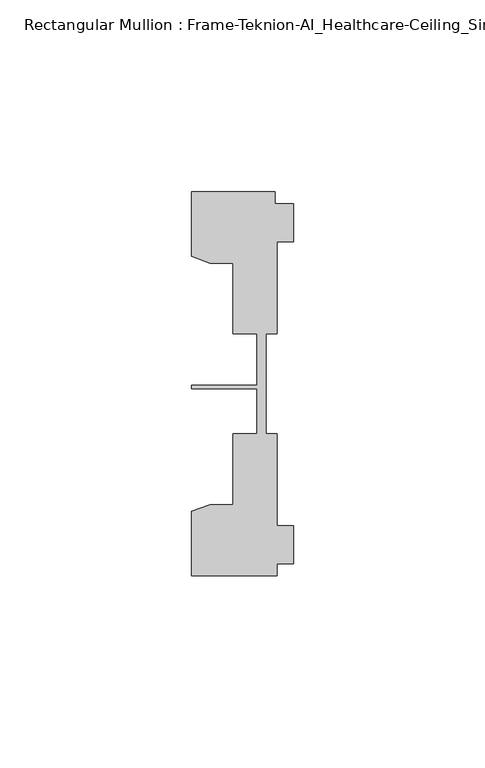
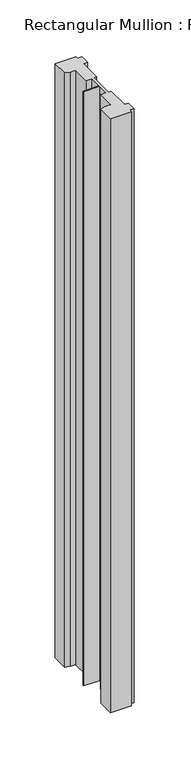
"""IFC4 building model written with IfcOpenShell, lengths in millimetres: member geometry, Rectangular Mullion : Frame-Teknion-AI_Healthcare-Ceiling_Single_Channel."""

import ifcopenshell
import ifcopenshell.guid

model = None  # the IFC model being written
_history = None  # IfcOwnerHistory: only IFC2X3 demands one
_inside = {}  # id of a spatial element -> (the spatial element, [elements in it])
_under = {}  # id of a project, library or spatial element -> (it, [spatial elements below it])
_declared = {}  # id of a project -> (the project, [libraries it declares])
_typed = {}  # id of a type object -> (the type object, [elements of that type])
_made_of = {}  # id of a material, layer set ... -> (it, [elements and type objects made of it])


def new_model(schema):
    """Start an empty IFC model of exactly this schema.

    Asked for "IFC4X3", IfcOpenShell would pick the latest addendum, in which some entities
    have other attributes; the version numbers below select the first issue.
    IFC2X3 requires an IfcOwnerHistory on every rooted entity: one is made here for all.
    """
    global model, _history
    if schema == "IFC4X3":
        model = ifcopenshell.file(schema_version=(4, 3, 0, 0))
    else:
        model = ifcopenshell.file(schema=schema)
    _inside.clear()
    _under.clear()
    _declared.clear()
    _typed.clear()
    _made_of.clear()
    _history = None
    if model.schema == "IFC2X3":
        org = make("IfcOrganization", Name="unknown")
        user = make(
            "IfcPersonAndOrganization",
            ThePerson=make("IfcPerson", FamilyName="unknown"),
            TheOrganization=org,
        )
        app = make(
            "IfcApplication",
            ApplicationDeveloper=org,
            Version="unknown",
            ApplicationFullName="unknown",
            ApplicationIdentifier="unknown",
        )
        _history = make(
            "IfcOwnerHistory",
            OwningUser=user,
            OwningApplication=app,
            ChangeAction="ADDED",
            CreationDate=0,
        )
    return model


def make(cls, **values):
    """One entity of the class cls with the attributes given. An attribute that is None is left unset."""
    return model.create_entity(
        cls, **{name: value for name, value in values.items() if value is not None}
    )


def rooted(cls, **values):
    """An entity with a GlobalId (a new one), such as an element, a storey or a relation."""
    return make(cls, GlobalId=ifcopenshell.guid.new(), OwnerHistory=_history, **values)


def si_unit(unit_type, name, prefix=None):
    """IfcSIUnit, for example si_unit("LENGTHUNIT", "METRE", prefix="MILLI")."""
    return make("IfcSIUnit", UnitType=unit_type, Prefix=prefix, Name=name)


def assignment(units):
    """IfcUnitAssignment: the units of a project."""
    return None if units is None else make("IfcUnitAssignment", Units=units)


def point(xyz):
    """IfcCartesianPoint."""
    return None if xyz is None else make("IfcCartesianPoint", Coordinates=xyz)


def direction(xyz):
    """IfcDirection."""
    return None if xyz is None else make("IfcDirection", DirectionRatios=xyz)


def frame(location, z_axis=None, x_axis=None):
    """IfcAxis2Placement3D, a coordinate frame: its origin and axes. An axis left out is left unset."""
    return make(
        "IfcAxis2Placement3D",
        Location=point(location),
        Axis=direction(z_axis),
        RefDirection=direction(x_axis),
    )


def origin():
    """The frame at (0, 0, 0) with its axes left unset."""
    return frame((0.0, 0.0, 0.0))


def place(relative_to, where):
    """IfcLocalPlacement: puts the frame where relative to a parent placement (None: the world)."""
    return make(
        "IfcLocalPlacement", PlacementRelTo=relative_to, RelativePlacement=where
    )


def context(
    kind, dimensions, precision=None, world=None, true_north=None, identifier=None
):
    """IfcGeometricRepresentationContext, for example the 3D "Model" context."""
    return make(
        "IfcGeometricRepresentationContext",
        ContextIdentifier=identifier,
        ContextType=kind,
        CoordinateSpaceDimension=dimensions,
        Precision=precision,
        WorldCoordinateSystem=world,
        TrueNorth=true_north,
    )


def project(units=None, contexts=None):
    """IfcProject with its units and contexts."""
    return rooted(
        "IfcProject",
        Name="project",
        RepresentationContexts=contexts,
        UnitsInContext=assignment(units),
    )


def spatial(cls, under=None, at=None, **own):
    """A site, building, storey or space (cls), placed at a placement, below another one or the project."""
    s = rooted(cls, ObjectPlacement=at, **own)
    if under is not None:
        _under.setdefault(under.id(), (under, []))[1].append(s)
    return s


def polyline(points):
    """IfcPolyline through the points."""
    return make("IfcPolyline", Points=[point(p) for p in points])


def outline(outer, holes=None, kind="AREA"):
    """IfcArbitraryClosedProfileDef: a profile drawn as a closed curve; with holes, ...WithVoids."""
    if holes is None:
        return make("IfcArbitraryClosedProfileDef", ProfileType=kind, OuterCurve=outer)
    return make(
        "IfcArbitraryProfileDefWithVoids",
        ProfileType=kind,
        OuterCurve=outer,
        InnerCurves=holes,
    )


def extrude(swept, where, along, depth):
    """IfcExtrudedAreaSolid: the profile swept, set in the frame where, extruded along a direction by depth."""
    return make(
        "IfcExtrudedAreaSolid",
        SweptArea=swept,
        Position=where,
        ExtrudedDirection=direction(along),
        Depth=depth,
    )


def shape(context_of_items, identifier, shape_type, items):
    """IfcShapeRepresentation: the items that make up one representation, for example the "Body"."""
    return make(
        "IfcShapeRepresentation",
        ContextOfItems=context_of_items,
        RepresentationIdentifier=identifier,
        RepresentationType=shape_type,
        Items=items,
    )


def source(mapping_origin, context_of_items, identifier, shape_type, items):
    """IfcRepresentationMap: a shape defined once, which mapped items show again and again."""
    return make(
        "IfcRepresentationMap",
        MappingOrigin=mapping_origin,
        MappedRepresentation=shape(context_of_items, identifier, shape_type, items),
    )


def transform(
    local_origin,
    x_axis=None,
    y_axis=None,
    z_axis=None,
    scale=None,
    scale2=None,
    scale3=None,
    uniform=True,
):
    """IfcCartesianTransformationOperator3D, or its non-uniform kind. x_axis, y_axis, z_axis: its Axis1, 2, 3."""
    if uniform:
        return make(
            "IfcCartesianTransformationOperator3D",
            Axis1=direction(x_axis),
            Axis2=direction(y_axis),
            LocalOrigin=point(local_origin),
            Scale=scale,
            Axis3=direction(z_axis),
        )
    return make(
        "IfcCartesianTransformationOperator3DnonUniform",
        Axis1=direction(x_axis),
        Axis2=direction(y_axis),
        LocalOrigin=point(local_origin),
        Scale=scale,
        Axis3=direction(z_axis),
        Scale2=scale2,
        Scale3=scale3,
    )


def mapped(mapping_source, mapping_target):
    """IfcMappedItem: shows the shape of a source again, moved by a transform."""
    return make(
        "IfcMappedItem", MappingSource=mapping_source, MappingTarget=mapping_target
    )


def made_of(thing, what):
    """Note that an element or type object is made of a material, layer set ...; save() writes the relation."""
    if what is not None:
        _made_of.setdefault(what.id(), (what, []))[1].append(thing)
    return thing


def element(
    cls,
    number,
    at=None,
    inside=None,
    cuts=None,
    type_object=None,
    material=None,
    context=None,
    identifier="Body",
    shape_type=None,
    held_by="IfcProductDefinitionShape",
    body=None,
    shapes=None,
    **own,
):
    """One element of the class cls, such as IfcWall. Its Tag is "e" and its number.

    at: its placement. inside: the storey or other place that contains it. cuts: it is an
    opening in that element (IfcRelVoidsElement). A single representation is given by context,
    identifier, shape_type and body (its items); several are given by shapes. held_by: the class
    of the entity that holds the representations. save() writes the other relations.
    """
    e = rooted(cls, Tag="e%d" % number, ObjectPlacement=at, **own)
    if body is not None:
        shapes = [shape(context, identifier, shape_type, body)]
    if shapes is not None:
        e.Representation = make(held_by, Representations=shapes)
    if inside is not None:
        _inside.setdefault(inside.id(), (inside, []))[1].append(e)
    if cuts is not None:
        rooted(
            "IfcRelVoidsElement", RelatingBuildingElement=cuts, RelatedOpeningElement=e
        )
    if type_object is not None:
        _typed.setdefault(type_object.id(), (type_object, []))[1].append(e)
    return made_of(e, material)


def aggregate(whole, parts):
    """IfcRelAggregates: a whole, such as a stair, and the parts it consists of."""
    return rooted("IfcRelAggregates", RelatingObject=whole, RelatedObjects=parts)


def save(model, path):
    """Write the relations noted so far, then the file.

    IfcRelAggregates (storeys below a building ...), IfcRelContainedInSpatialStructure (elements
    in a storey), IfcRelDefinesByType, IfcRelAssociatesMaterial and IfcRelDeclares: one each for
    every whole, place, type object, material and project.
    """
    for whole, parts in _under.values():
        aggregate(whole, parts)
    for where, things in _inside.values():
        rooted(
            "IfcRelContainedInSpatialStructure",
            RelatedElements=things,
            RelatingStructure=where,
        )
    for kind, things in _typed.values():
        rooted("IfcRelDefinesByType", RelatedObjects=things, RelatingType=kind)
    for what, things in _made_of.values():
        rooted("IfcRelAssociatesMaterial", RelatedObjects=things, RelatingMaterial=what)
    for by, libraries in _declared.values():
        rooted("IfcRelDeclares", RelatingContext=by, RelatedDefinitions=libraries)
    model.write(path)


def rectangular_mullion_frame_teknion_ai_healthcare_ceiling_db2f11a4(model_context):
    return source(origin(), model_context, "Body", "SweptSolid", [
        extrude(outline(polyline([(-26.4921999, 34.0201677), (-26.4921999, 50.8315128), (-4.7752002, 50.8315128), (-4.7752002, 47.782071), (0.0, 47.782071), (0.0, 37.7820716), (-4.2672007, 37.7820716), (-4.2672007, 13.9110722), (-7.1647766, 13.9110722), (-7.1647766, 0.0814804), (-7.1647766, -12.2509301), (-4.2672007, -12.2509301), (-4.2672007, -36.1219249), (0.0, -36.1219249), (0.0, -46.1219322), (-4.2672007, -46.1219322), (-4.2672007, -49.1699293), (-26.4921999, -49.1699293), (-26.4921999, -32.3600207), (-21.6625199, -30.6279561), (-15.6737764, -30.6279561), (-15.6737764, -12.2509301), (-9.4507761, -12.2509301), (-9.4507761, -0.4036528), (-26.4921999, -0.4036528), (-26.4921999, 0.4036528), (-9.4507761, 0.4036528), (-9.4507761, 13.9110722), (-15.6737764, 13.9110722), (-15.6737764, 32.2880982), (-21.6625199, 32.2880982), (-26.4921999, 34.0201677)])), frame((0.0, 0.0, -655.9798568), z_axis=(0.0, 0.0, 1.0), x_axis=(1.0, 0.0, 0.0)), (0.0, 0.0, 1.0), 655.9798568),
    ])


if __name__ == "__main__":
    model = new_model("IFC4")
    model_context = context("Model", 3, world=origin())
    ifc_project = project(units=[si_unit("LENGTHUNIT", "METRE", prefix="MILLI")], contexts=[model_context])
    site = spatial("IfcSite", under=ifc_project)
    building = spatial("IfcBuilding", under=site)
    placement = place(None, origin())
    rectangular_mullion_frame_teknion_ai_healthcare_ceiling_shape = rectangular_mullion_frame_teknion_ai_healthcare_ceiling_db2f11a4(model_context)
    element("IfcMember", 1, ObjectType="Rectangular Mullion : Frame-Teknion-AI_Healthcare-Ceiling_Single_Channel", at=placement, inside=building, context=model_context, shape_type="MappedRepresentation", body=[
        mapped(rectangular_mullion_frame_teknion_ai_healthcare_ceiling_shape, transform((0.0, 0.0, 0.0), x_axis=(1.0, 0.0, 0.0), y_axis=(0.0, 1.0, 0.0), z_axis=(0.0, 0.0, 1.0))),
    ])
    save(model, "model.ifc")
